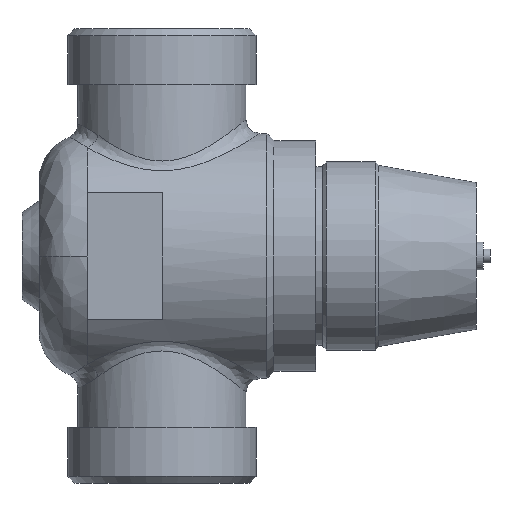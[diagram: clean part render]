
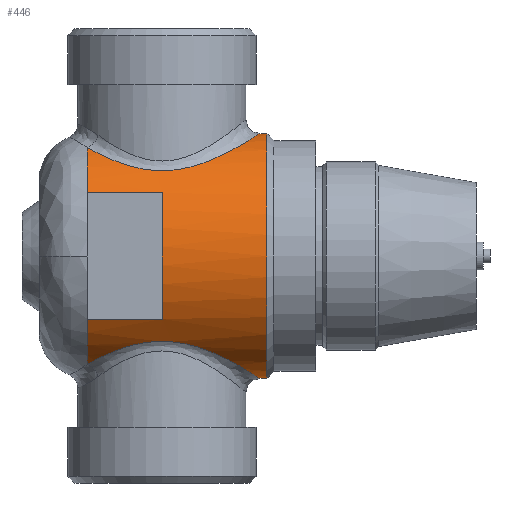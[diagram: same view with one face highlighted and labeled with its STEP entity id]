
A CAD part, left-side view. The second image highlights one B-rep face of the part: STEP entity #446.
In plain terms, the highlighted cylindrical face has radius 17.5 mm (diameter 35 mm), a partial arc.
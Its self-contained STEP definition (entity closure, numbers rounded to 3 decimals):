
#112=CARTESIAN_POINT('',(0.0,-15.0,15.0));
#113=VERTEX_POINT('',#112);
#122=CARTESIAN_POINT('',(0.,-15.,50.0));
#123=VERTEX_POINT('',#122);
#328=CARTESIAN_POINT('',(0.0,-1.5,32.5));
#329=DIRECTION('',(0.,1.0,0.));
#330=DIRECTION('',(0.0,0.0,-1.0));
#331=AXIS2_PLACEMENT_3D('',#328,#329,#330);
#332=CYLINDRICAL_SURFACE('',#331,17.5);
#333=CARTESIAN_POINT('',(0.,-14.,15.));
#334=VERTEX_POINT('',#333);
#335=CARTESIAN_POINT('',(0.0,-15.0,15.0));
#336=DIRECTION('',(0.0,1.0,0.0));
#337=VECTOR('',#336,1.);
#338=LINE('',#335,#337);
#339=EDGE_CURVE('',#113,#334,#338,.T.);
#340=ORIENTED_EDGE('',*,*,#339,.F.);
#341=CARTESIAN_POINT('',(0.0,-15.0,32.5));
#342=DIRECTION('',(0.0,-1.0,0.0));
#343=DIRECTION('',(0.0,0.0,-1.0));
#344=AXIS2_PLACEMENT_3D('',#341,#342,#343);
#345=CIRCLE('',#344,17.5);
#346=EDGE_CURVE('',#123,#113,#345,.T.);
#347=ORIENTED_EDGE('',*,*,#346,.F.);
#348=CARTESIAN_POINT('',(0.,-14.,50.0));
#349=VERTEX_POINT('',#348);
#350=CARTESIAN_POINT('',(0.,-14.,50.0));
#351=DIRECTION('',(0.0,-1.0,0.0));
#352=VECTOR('',#351,1.0);
#353=LINE('',#350,#352);
#354=EDGE_CURVE('',#349,#123,#353,.T.);
#355=ORIENTED_EDGE('',*,*,#354,.F.);
#356=CARTESIAN_POINT('',(-8.142,10.663,47.991));
#357=VERTEX_POINT('',#356);
#358=CARTESIAN_POINT('',(-8.142,10.663,47.991));
#359=CARTESIAN_POINT('',(-9.046,9.805,47.515));
#360=CARTESIAN_POINT('',(-9.84,8.806,46.995));
#361=CARTESIAN_POINT('',(-10.494,7.699,46.505));
#362=CARTESIAN_POINT('',(-11.756,5.562,45.559));
#363=CARTESIAN_POINT('',(-12.534,2.94,44.713));
#364=CARTESIAN_POINT('',(-12.563,0.163,44.683));
#365=CARTESIAN_POINT('',(-12.592,-2.58,44.653));
#366=CARTESIAN_POINT('',(-11.883,-5.207,45.436));
#367=CARTESIAN_POINT('',(-10.686,-7.363,46.358));
#368=CARTESIAN_POINT('',(-9.711,-9.12,47.11));
#369=CARTESIAN_POINT('',(-8.415,-10.608,47.941));
#370=CARTESIAN_POINT('',(-6.828,-11.752,48.613));
#371=CARTESIAN_POINT('',(-5.623,-12.621,49.124));
#372=CARTESIAN_POINT('',(-4.265,-13.275,49.537));
#373=CARTESIAN_POINT('',(-2.799,-13.648,49.775));
#374=CARTESIAN_POINT('',(-1.886,-13.881,49.923));
#375=CARTESIAN_POINT('',(-0.945,-14.,50.0));
#376=CARTESIAN_POINT('',(0.,-14.,50.0));
#377=B_SPLINE_CURVE_WITH_KNOTS('',3,(#358,#359,#360,#361,#362,#363,#364,#365,#366,#367,#368,#369,#370,#371,#372,#373,#374,#375,#376),.UNSPECIFIED.,.F.,.U.,(4,3,3,3,3,3,4),(0.0,4.275,12.521,20.67,27.313,32.355,35.498),.UNSPECIFIED.);
#378=EDGE_CURVE('',#357,#349,#377,.T.);
#379=ORIENTED_EDGE('',*,*,#378,.F.);
#380=CARTESIAN_POINT('',(-15.003,10.663,41.508));
#381=VERTEX_POINT('',#380);
#382=CARTESIAN_POINT('',(0.0,10.663,32.5));
#383=DIRECTION('',(0.0,1.0,0.0));
#384=DIRECTION('',(-1.0,0.0,0.0));
#385=AXIS2_PLACEMENT_3D('',#382,#383,#384);
#386=CIRCLE('',#385,17.5);
#387=EDGE_CURVE('',#381,#357,#386,.T.);
#388=ORIENTED_EDGE('',*,*,#387,.F.);
#389=CARTESIAN_POINT('',(-15.003,-0.08,41.508));
#390=VERTEX_POINT('',#389);
#391=CARTESIAN_POINT('',(-15.003,-0.08,41.508));
#392=DIRECTION('',(0.0,1.0,0.0));
#393=VECTOR('',#392,10.743);
#394=LINE('',#391,#393);
#395=EDGE_CURVE('',#390,#381,#394,.T.);
#396=ORIENTED_EDGE('',*,*,#395,.F.);
#397=CARTESIAN_POINT('',(-15.003,-0.08,23.492));
#398=VERTEX_POINT('',#397);
#399=CARTESIAN_POINT('',(0.0,-0.08,32.5));
#400=DIRECTION('',(0.0,1.0,0.0));
#401=DIRECTION('',(0.0,0.0,-1.0));
#402=AXIS2_PLACEMENT_3D('',#399,#400,#401);
#403=CIRCLE('',#402,17.5);
#404=EDGE_CURVE('',#398,#390,#403,.T.);
#405=ORIENTED_EDGE('',*,*,#404,.F.);
#406=CARTESIAN_POINT('',(-15.003,10.663,23.492));
#407=VERTEX_POINT('',#406);
#408=CARTESIAN_POINT('',(-15.003,10.663,23.492));
#409=DIRECTION('',(0.0,-1.0,0.0));
#410=VECTOR('',#409,10.743);
#411=LINE('',#408,#410);
#412=EDGE_CURVE('',#407,#398,#411,.T.);
#413=ORIENTED_EDGE('',*,*,#412,.F.);
#414=CARTESIAN_POINT('',(-8.142,10.663,17.009));
#415=VERTEX_POINT('',#414);
#416=CARTESIAN_POINT('',(0.0,10.663,32.5));
#417=DIRECTION('',(0.0,1.0,0.0));
#418=DIRECTION('',(-1.0,0.0,0.0));
#419=AXIS2_PLACEMENT_3D('',#416,#417,#418);
#420=CIRCLE('',#419,17.5);
#421=EDGE_CURVE('',#415,#407,#420,.T.);
#422=ORIENTED_EDGE('',*,*,#421,.F.);
#423=CARTESIAN_POINT('',(0.,-14.,15.));
#424=CARTESIAN_POINT('',(-0.003,-14.,15.));
#425=CARTESIAN_POINT('',(-0.005,-14.,15.));
#426=CARTESIAN_POINT('',(-0.956,-13.999,15.));
#427=CARTESIAN_POINT('',(-1.911,-13.876,15.08));
#428=CARTESIAN_POINT('',(-4.276,-13.269,15.467));
#429=CARTESIAN_POINT('',(-5.651,-12.605,15.886));
#430=CARTESIAN_POINT('',(-8.227,-10.739,16.982));
#431=CARTESIAN_POINT('',(-9.396,-9.466,17.693));
#432=CARTESIAN_POINT('',(-11.399,-6.256,19.154));
#433=CARTESIAN_POINT('',(-12.162,-4.192,19.91));
#434=CARTESIAN_POINT('',(-12.639,-0.372,20.393));
#435=CARTESIAN_POINT('',(-12.592,1.247,20.341));
#436=CARTESIAN_POINT('',(-12.039,4.298,19.793));
#437=CARTESIAN_POINT('',(-11.547,5.709,19.324));
#438=CARTESIAN_POINT('',(-10.166,8.384,18.226));
#439=CARTESIAN_POINT('',(-9.241,9.621,17.587));
#440=CARTESIAN_POINT('',(-8.142,10.663,17.009));
#441=B_SPLINE_CURVE_WITH_KNOTS('',3,(#423,#424,#425,#426,#427,#428,#429,#430,#431,#432,#433,#434,#435,#436,#437,#438,#439,#440),.UNSPECIFIED.,.F.,.U.,(4,2,2,2,2,2,2,2,4),(35.498,35.507,38.659,43.701,49.512,56.376,61.097,65.818,71.014),.UNSPECIFIED.);
#442=EDGE_CURVE('',#334,#415,#441,.T.);
#443=ORIENTED_EDGE('',*,*,#442,.F.);
#444=EDGE_LOOP('',(#340,#347,#355,#379,#388,#396,#405,#413,#422,#443));
#445=FACE_OUTER_BOUND('',#444,.T.);
#446=ADVANCED_FACE('',(#445),#332,.T.);
